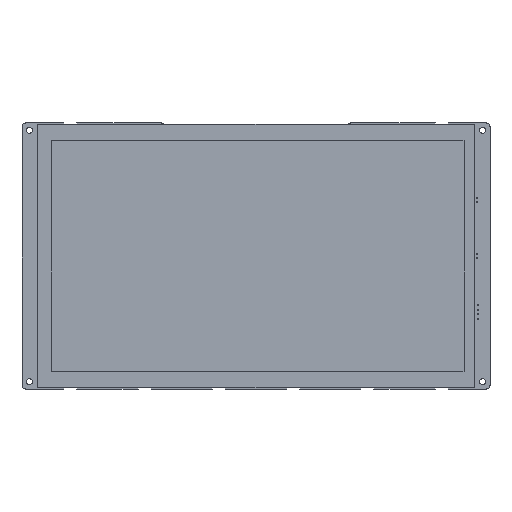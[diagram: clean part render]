
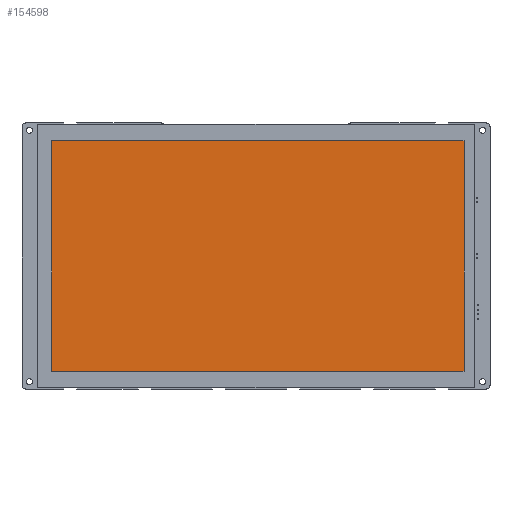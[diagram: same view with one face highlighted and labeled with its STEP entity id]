
A CAD part, top view. The second image highlights one B-rep face of the part: STEP entity #154598.
In plain terms, the highlighted planar face has unit normal (0, 0, 1) as drawn and (0, -1, 0) by its records, which use the part's own axes.
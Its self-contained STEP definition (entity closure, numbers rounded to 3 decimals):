
#9257=PLANE('',#164794);
#16819=FACE_OUTER_BOUND('',#24748,.T.);
#24748=EDGE_LOOP('',(#137167,#137168,#137169,#137170));
#43499=LINE('',#261394,#60575);
#43502=LINE('',#261400,#60578);
#43505=LINE('',#261406,#60581);
#43508=LINE('',#261410,#60584);
#60575=VECTOR('',#199761,10.);
#60578=VECTOR('',#199766,10.);
#60581=VECTOR('',#199771,10.);
#60584=VECTOR('',#199776,10.);
#74563=VERTEX_POINT('',#261391);
#74564=VERTEX_POINT('',#261393);
#74566=VERTEX_POINT('',#261399);
#74568=VERTEX_POINT('',#261405);
#95527=EDGE_CURVE('',#74564,#74563,#43499,.T.);
#95530=EDGE_CURVE('',#74566,#74564,#43502,.T.);
#95533=EDGE_CURVE('',#74568,#74566,#43505,.T.);
#95536=EDGE_CURVE('',#74563,#74568,#43508,.T.);
#137167=ORIENTED_EDGE('',*,*,#95536,.T.);
#137168=ORIENTED_EDGE('',*,*,#95533,.T.);
#137169=ORIENTED_EDGE('',*,*,#95530,.T.);
#137170=ORIENTED_EDGE('',*,*,#95527,.T.);
#154598=ADVANCED_FACE('',(#16819),#9257,.T.);
#164794=AXIS2_PLACEMENT_3D('',#261411,#199777,#199778);
#199761=DIRECTION('',(-1.,0.,0.));
#199766=DIRECTION('',(0.,0.,1.));
#199771=DIRECTION('',(1.,0.,0.));
#199776=DIRECTION('',(0.,0.,-1.));
#199777=DIRECTION('center_axis',(0.,-1.,0.));
#199778=DIRECTION('ref_axis',(0.,0.,-1.));
#261391=CARTESIAN_POINT('',(-110.,-5.,62.));
#261393=CARTESIAN_POINT('',(112.,-5.,62.));
#261394=CARTESIAN_POINT('',(112.,-5.,62.));
#261399=CARTESIAN_POINT('',(112.,-5.,-62.));
#261400=CARTESIAN_POINT('',(112.,-5.,-62.));
#261405=CARTESIAN_POINT('',(-110.,-5.,-62.));
#261406=CARTESIAN_POINT('',(-110.,-5.,-62.));
#261410=CARTESIAN_POINT('',(-110.,-5.,62.));
#261411=CARTESIAN_POINT('Origin',(1.,-5.,0.));
